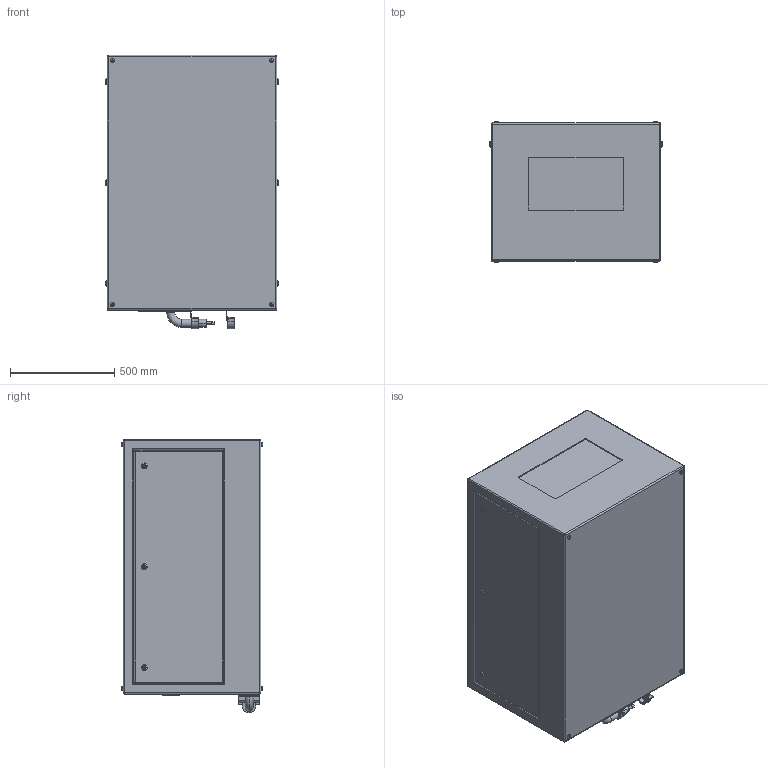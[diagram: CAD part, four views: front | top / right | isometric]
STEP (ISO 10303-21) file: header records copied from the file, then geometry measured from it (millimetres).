
FILE_DESCRIPTION (( 'STEP AP214' ), '1' );
FILE_NAME ('Oasis 59.150.L R02.STEP', '2022-09-12T23:35:21', ( '' ), ( '' ), 'SwSTEP 2.0', 'SolidWorks 2020', '' );
FILE_SCHEMA (( 'AUTOMOTIVE_DESIGN' ));
Length unit declared in the file: inch
Products named in the file (1): Oasis 59.150.L R02
Bounding box: 825.5 x 677.67 x 1308.1 mm (x, y, z)
Volume: 653756482.9 mm3; surface area: 5135435.2 mm2
Topology: 3 solids, 9 shells, 480 faces, 1097 edges, 694 vertices
Faces by surface type: plane 261, cylinder 169, torus 42, bspline 8
Entity records: 18175 total; most frequent: CARTESIAN_POINT 2784, DIRECTION 2387, ORIENTED_EDGE 2178, EDGE_CURVE 1089, AXIS2_PLACEMENT_3D 857, VERTEX_POINT 694, VECTOR 673, LINE 673
